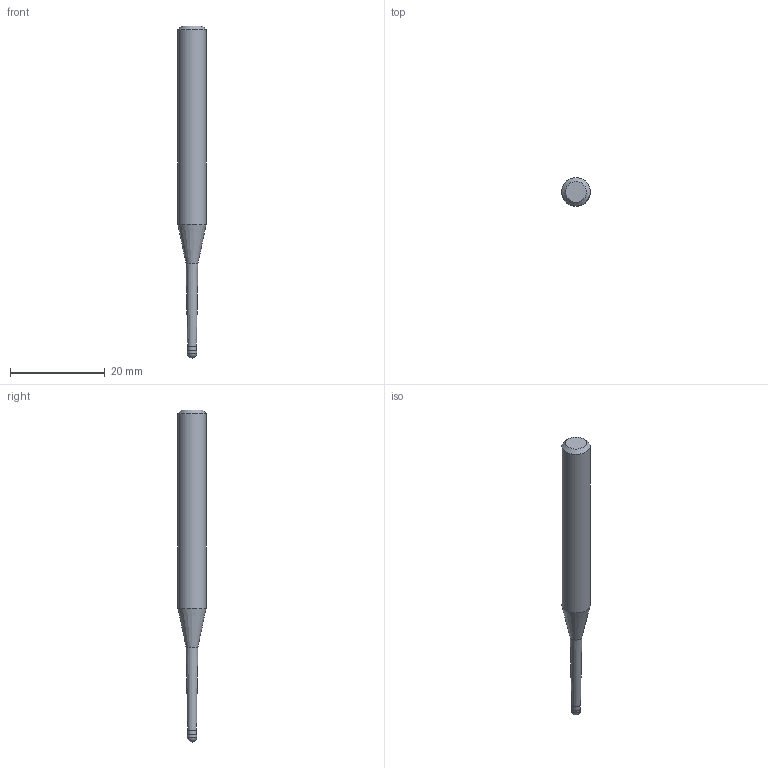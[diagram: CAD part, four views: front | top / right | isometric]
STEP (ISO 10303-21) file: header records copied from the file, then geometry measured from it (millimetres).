
FILE_DESCRIPTION((''),'2;1');
FILE_NAME('C:\Users\nsx150\AppData\Local\Temp\Mastercam 2021\E0ENTZRV18\TEMP.step','2021-09-02T09:56:50',(''),(''),'STEP Write','Mastercam 2021 ... CNC Software, Inc.','');
FILE_SCHEMA(('AUTOMOTIVE_DESIGN'));
Length unit declared in the file: millimetre
Products named in the file (1): None
Bounding box: 6 x 6 x 70 mm (x, y, z)
Volume: 1371.5 mm3; surface area: 1059.8 mm2
Topology: 2 solids, 2 shells, 10 faces, 16 edges, 9 vertices
Faces by surface type: plane 3, cylinder 3, cone 3, sphere 1
Full cylindrical faces by diameter (mm): 1.875 x1, 2 x1, 6 x1
Entity records: 232 total; most frequent: DIRECTION 40, CARTESIAN_POINT 28, AXIS2_PLACEMENT_3D 20, ORIENTED_EDGE 16, EDGE_LOOP 16, STYLED_ITEM 13, ADVANCED_FACE 10, FACE_BOUND 9
